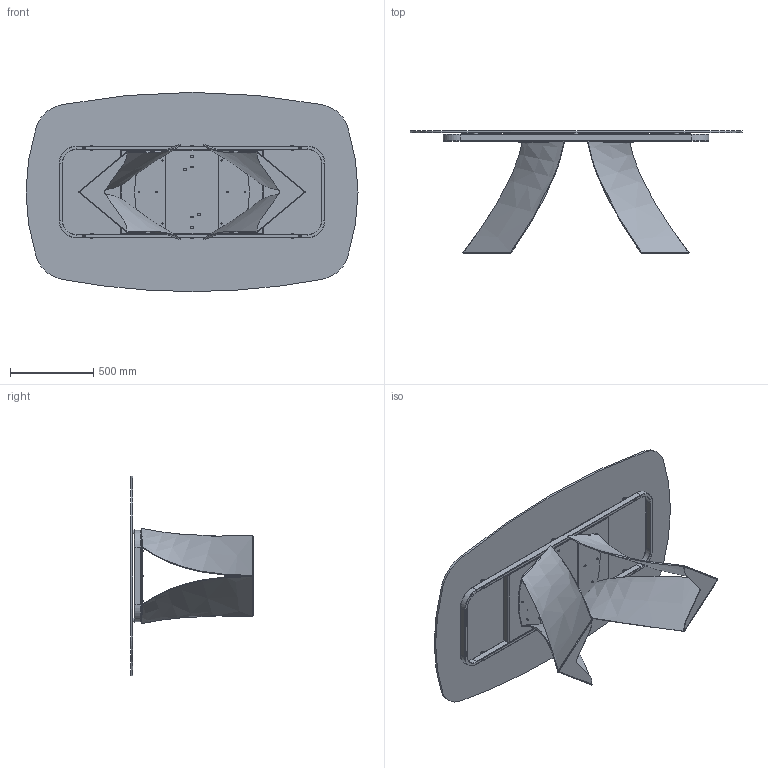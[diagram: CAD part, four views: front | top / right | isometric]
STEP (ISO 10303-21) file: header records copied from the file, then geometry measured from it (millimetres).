
FILE_DESCRIPTION (( 'STEP AP203' ), '1' );
FILE_NAME ('TW41G.STEP', '2024-08-07T12:37:30', ( '' ), ( '' ), 'SwSTEP 2.0', 'SolidWorks 2022', '' );
FILE_SCHEMA (( 'CONFIG_CONTROL_DESIGN' ));
Length unit declared in the file: millimetre
Products named in the file (9): TEALIO TEMP PER MANUALE; rondella M8_8X16; 434070-00-PIEDINO TPV GOMMA NERO D. 30x8max18; TTAV01_02-01-VASSOIO IRRIGIDIMENTO TELAIO UNIVERSALE; TW41G; TWS000000BAS-00-TWIST BASE GREZZA; TUBOLARE TELAIO TEMP TWIST_Default<A macchina>; M8xXXmm_M8x20mm; C4XCRXX-00-Piani Sagomati in Cristallo_2000x1200
Assembly tree (36 placements, depth 3):
  TW41G
    C4XCRXX-00-Piani Sagomati in Cristallo_2000x1200
    TEALIO TEMP PER MANUALE
      TUBOLARE TELAIO TEMP TWIST_Default<A macchina>
      TTAV01_02-01-VASSOIO IRRIGIDIMENTO TELAIO UNIVERSALE
    TWS000000BAS-00-TWIST BASE GREZZA  x2
    M8xXXmm_M8x20mm  x12
    rondella M8_8X16  x12
    434070-00-PIEDINO TPV GOMMA NERO D. 30x8max18  x6
Bounding box: 2000 x 737.37 x 1200 mm (x, y, z)
Volume: 36428266.4 mm3; surface area: 8814712.6 mm2
Topology: 56 solids, 56 shells, 1109 faces, 2585 edges, 1576 vertices
Faces by surface type: plane 424, cylinder 287, torus 200, cone 132, bspline 66
Entity records: 22498 total; most frequent: CARTESIAN_POINT 8927, DIRECTION 2524, ORIENTED_EDGE 2432, EDGE_CURVE 1216, AXIS2_PLACEMENT_3D 939, VERTEX_POINT 789, LINE 646, VECTOR 646
